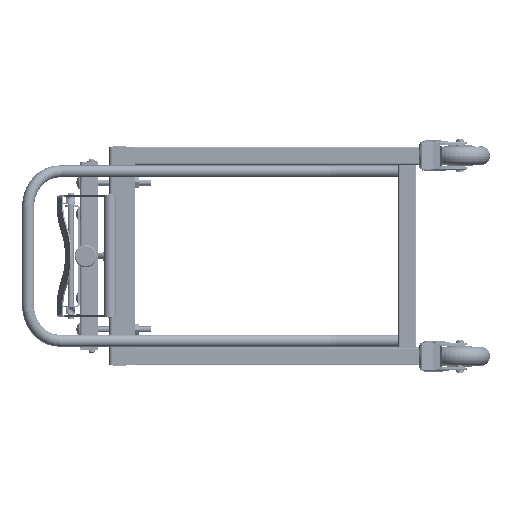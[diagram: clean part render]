
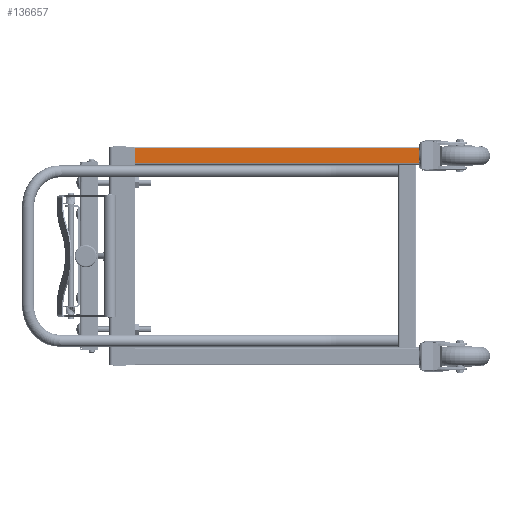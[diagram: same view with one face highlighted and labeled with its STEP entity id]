
A CAD part, left-side view. The second image highlights one B-rep face of the part: STEP entity #136657.
In plain terms, the highlighted planar face has unit normal (-1, 0, 0).
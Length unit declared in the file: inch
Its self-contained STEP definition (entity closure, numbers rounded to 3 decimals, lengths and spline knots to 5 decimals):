
#4297 = ORIENTED_EDGE ( 'NONE', *, *, #54737, .T. ) ;
#9237 = LINE ( 'NONE', #263362, #67800 ) ;
#17542 = PLANE ( 'NONE',  #127933 ) ;
#27975 = EDGE_CURVE ( 'NONE', #161440, #104463, #9237, .T. ) ;
#32308 = CARTESIAN_POINT ( 'NONE',  ( -13., 25.75, 7.75 ) ) ;
#43077 = EDGE_LOOP ( 'NONE', ( #126345, #193875, #52240, #4297 ) ) ;
#43406 = CARTESIAN_POINT ( 'NONE',  ( -13., 25.75, 7.75 ) ) ;
#52240 = ORIENTED_EDGE ( 'NONE', *, *, #275734, .F. ) ;
#54737 = EDGE_CURVE ( 'NONE', #114073, #235551, #204057, .T. ) ;
#58521 = FACE_OUTER_BOUND ( 'NONE', #43077, .T. ) ;
#64220 = CARTESIAN_POINT ( 'NONE',  ( -13., 0., 9. ) ) ;
#67800 = VECTOR ( 'NONE', #264752, 39.37008 ) ;
#67894 = CARTESIAN_POINT ( 'NONE',  ( -13., 0., 7.75 ) ) ;
#71475 = CARTESIAN_POINT ( 'NONE',  ( -13., 25.75, 9. ) ) ;
#104463 = VERTEX_POINT ( 'NONE', #43406 ) ;
#107642 = VECTOR ( 'NONE', #154018, 39.37008 ) ;
#114073 = VERTEX_POINT ( 'NONE', #64220 ) ;
#118452 = DIRECTION ( 'NONE',  ( 0., 0., 1. ) ) ;
#126345 = ORIENTED_EDGE ( 'NONE', *, *, #187049, .F. ) ;
#127933 = AXIS2_PLACEMENT_3D ( 'NONE', #209569, #147461, #167248 ) ;
#136657 = ADVANCED_FACE ( 'NONE', ( #58521 ), #17542, .F. ) ;
#147461 = DIRECTION ( 'NONE',  ( 1., 0., 0. ) ) ;
#154018 = DIRECTION ( 'NONE',  ( 0., 0., -1. ) ) ;
#159398 = LINE ( 'NONE', #32308, #272073 ) ;
#161440 = VERTEX_POINT ( 'NONE', #264733 ) ;
#167248 = DIRECTION ( 'NONE',  ( 0., 0., -1. ) ) ;
#187049 = EDGE_CURVE ( 'NONE', #104463, #235551, #159398, .T. ) ;
#193875 = ORIENTED_EDGE ( 'NONE', *, *, #27975, .F. ) ;
#204057 = LINE ( 'NONE', #244957, #247534 ) ;
#209569 = CARTESIAN_POINT ( 'NONE',  ( -13., 0., 7.75 ) ) ;
#227973 = DIRECTION ( 'NONE',  ( 0., 1., 0. ) ) ;
#235551 = VERTEX_POINT ( 'NONE', #71475 ) ;
#240001 = LINE ( 'NONE', #67894, #107642 ) ;
#244957 = CARTESIAN_POINT ( 'NONE',  ( -13., 0., 9. ) ) ;
#247534 = VECTOR ( 'NONE', #227973, 39.37008 ) ;
#263362 = CARTESIAN_POINT ( 'NONE',  ( -13., 0., 7.75 ) ) ;
#264733 = CARTESIAN_POINT ( 'NONE',  ( -13., 0., 7.75 ) ) ;
#264752 = DIRECTION ( 'NONE',  ( 0., 1., 0. ) ) ;
#272073 = VECTOR ( 'NONE', #118452, 39.37008 ) ;
#275734 = EDGE_CURVE ( 'NONE', #114073, #161440, #240001, .T. ) ;
